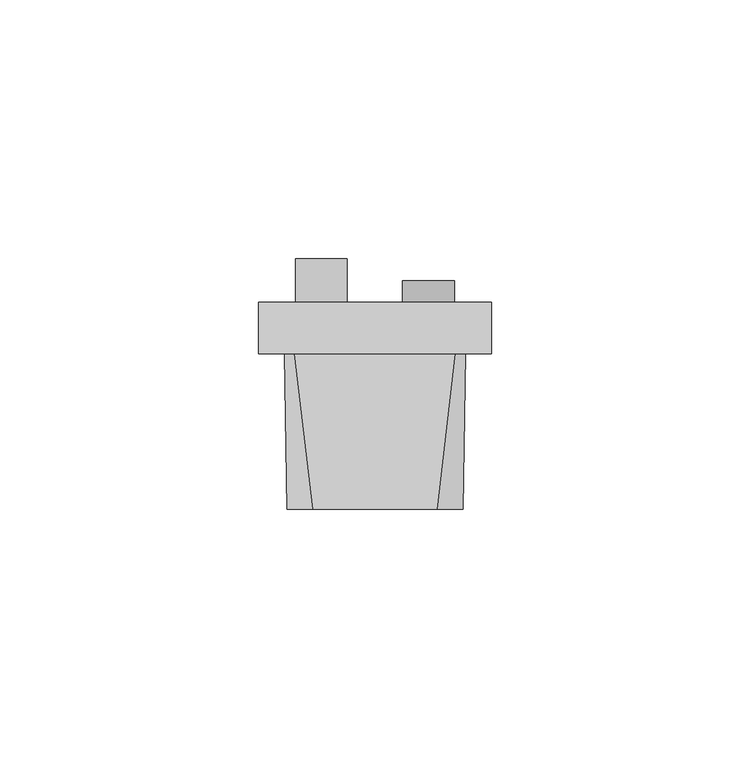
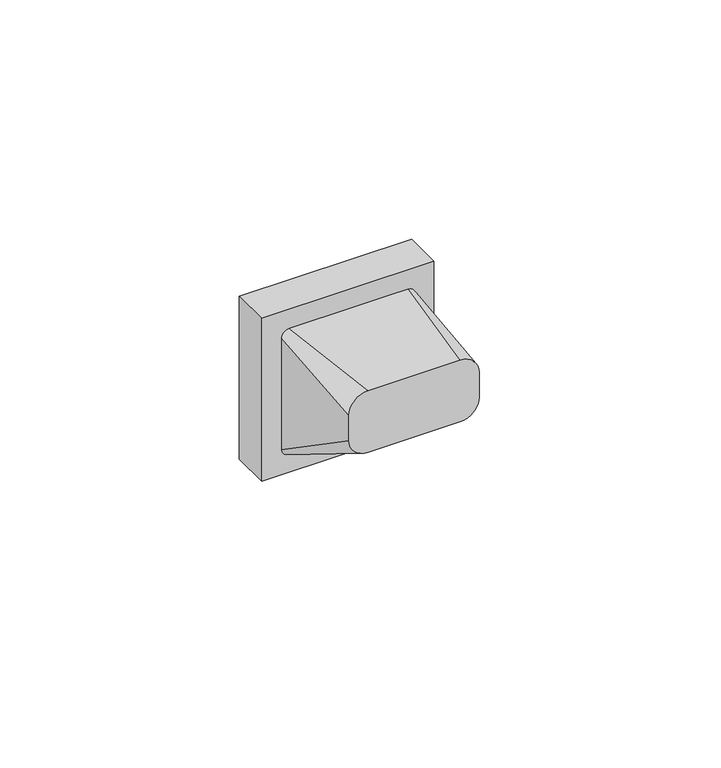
"""IFC4 building model written with IfcOpenShell, lengths in millimetres: proxy geometry, IEK_Skandy_Механизм розетки мультимедийной : TV+SAT_SK-A13B."""

import ifcopenshell
import ifcopenshell.guid

model = None  # the IFC model being written
_history = None  # IfcOwnerHistory: only IFC2X3 demands one
_inside = {}  # id of a spatial element -> (the spatial element, [elements in it])
_under = {}  # id of a project, library or spatial element -> (it, [spatial elements below it])
_declared = {}  # id of a project -> (the project, [libraries it declares])
_typed = {}  # id of a type object -> (the type object, [elements of that type])
_made_of = {}  # id of a material, layer set ... -> (it, [elements and type objects made of it])


def new_model(schema):
    """Start an empty IFC model of exactly this schema.

    Asked for "IFC4X3", IfcOpenShell would pick the latest addendum, in which some entities
    have other attributes; the version numbers below select the first issue.
    IFC2X3 requires an IfcOwnerHistory on every rooted entity: one is made here for all.
    """
    global model, _history
    if schema == "IFC4X3":
        model = ifcopenshell.file(schema_version=(4, 3, 0, 0))
    else:
        model = ifcopenshell.file(schema=schema)
    _inside.clear()
    _under.clear()
    _declared.clear()
    _typed.clear()
    _made_of.clear()
    _history = None
    if model.schema == "IFC2X3":
        org = make("IfcOrganization", Name="unknown")
        user = make(
            "IfcPersonAndOrganization",
            ThePerson=make("IfcPerson", FamilyName="unknown"),
            TheOrganization=org,
        )
        app = make(
            "IfcApplication",
            ApplicationDeveloper=org,
            Version="unknown",
            ApplicationFullName="unknown",
            ApplicationIdentifier="unknown",
        )
        _history = make(
            "IfcOwnerHistory",
            OwningUser=user,
            OwningApplication=app,
            ChangeAction="ADDED",
            CreationDate=0,
        )
    return model


def make(cls, **values):
    """One entity of the class cls with the attributes given. An attribute that is None is left unset."""
    return model.create_entity(
        cls, **{name: value for name, value in values.items() if value is not None}
    )


def rooted(cls, **values):
    """An entity with a GlobalId (a new one), such as an element, a storey or a relation."""
    return make(cls, GlobalId=ifcopenshell.guid.new(), OwnerHistory=_history, **values)


def si_unit(unit_type, name, prefix=None):
    """IfcSIUnit, for example si_unit("LENGTHUNIT", "METRE", prefix="MILLI")."""
    return make("IfcSIUnit", UnitType=unit_type, Prefix=prefix, Name=name)


def assignment(units):
    """IfcUnitAssignment: the units of a project."""
    return None if units is None else make("IfcUnitAssignment", Units=units)


def point(xyz):
    """IfcCartesianPoint."""
    return None if xyz is None else make("IfcCartesianPoint", Coordinates=xyz)


def direction(xyz):
    """IfcDirection."""
    return None if xyz is None else make("IfcDirection", DirectionRatios=xyz)


def frame(location, z_axis=None, x_axis=None):
    """IfcAxis2Placement3D, a coordinate frame: its origin and axes. An axis left out is left unset."""
    return make(
        "IfcAxis2Placement3D",
        Location=point(location),
        Axis=direction(z_axis),
        RefDirection=direction(x_axis),
    )


def origin():
    """The frame at (0, 0, 0) with its axes left unset."""
    return frame((0.0, 0.0, 0.0))


def place(relative_to, where):
    """IfcLocalPlacement: puts the frame where relative to a parent placement (None: the world)."""
    return make(
        "IfcLocalPlacement", PlacementRelTo=relative_to, RelativePlacement=where
    )


def context(
    kind, dimensions, precision=None, world=None, true_north=None, identifier=None
):
    """IfcGeometricRepresentationContext, for example the 3D "Model" context."""
    return make(
        "IfcGeometricRepresentationContext",
        ContextIdentifier=identifier,
        ContextType=kind,
        CoordinateSpaceDimension=dimensions,
        Precision=precision,
        WorldCoordinateSystem=world,
        TrueNorth=true_north,
    )


def project(units=None, contexts=None):
    """IfcProject with its units and contexts."""
    return rooted(
        "IfcProject",
        Name="project",
        RepresentationContexts=contexts,
        UnitsInContext=assignment(units),
    )


def spatial(cls, under=None, at=None, **own):
    """A site, building, storey or space (cls), placed at a placement, below another one or the project."""
    s = rooted(cls, ObjectPlacement=at, **own)
    if under is not None:
        _under.setdefault(under.id(), (under, []))[1].append(s)
    return s


def polyline(points):
    """IfcPolyline through the points."""
    return make("IfcPolyline", Points=[point(p) for p in points])


def circle_curve(where, radius):
    """IfcCircle in the frame where."""
    return make("IfcCircle", Position=where, Radius=radius)


def shape(context_of_items, identifier, shape_type, items):
    """IfcShapeRepresentation: the items that make up one representation, for example the "Body"."""
    return make(
        "IfcShapeRepresentation",
        ContextOfItems=context_of_items,
        RepresentationIdentifier=identifier,
        RepresentationType=shape_type,
        Items=items,
    )


def source(mapping_origin, context_of_items, identifier, shape_type, items):
    """IfcRepresentationMap: a shape defined once, which mapped items show again and again."""
    return make(
        "IfcRepresentationMap",
        MappingOrigin=mapping_origin,
        MappedRepresentation=shape(context_of_items, identifier, shape_type, items),
    )


def transform(
    local_origin,
    x_axis=None,
    y_axis=None,
    z_axis=None,
    scale=None,
    scale2=None,
    scale3=None,
    uniform=True,
):
    """IfcCartesianTransformationOperator3D, or its non-uniform kind. x_axis, y_axis, z_axis: its Axis1, 2, 3."""
    if uniform:
        return make(
            "IfcCartesianTransformationOperator3D",
            Axis1=direction(x_axis),
            Axis2=direction(y_axis),
            LocalOrigin=point(local_origin),
            Scale=scale,
            Axis3=direction(z_axis),
        )
    return make(
        "IfcCartesianTransformationOperator3DnonUniform",
        Axis1=direction(x_axis),
        Axis2=direction(y_axis),
        LocalOrigin=point(local_origin),
        Scale=scale,
        Axis3=direction(z_axis),
        Scale2=scale2,
        Scale3=scale3,
    )


def mapped(mapping_source, mapping_target):
    """IfcMappedItem: shows the shape of a source again, moved by a transform."""
    return make(
        "IfcMappedItem", MappingSource=mapping_source, MappingTarget=mapping_target
    )


def made_of(thing, what):
    """Note that an element or type object is made of a material, layer set ...; save() writes the relation."""
    if what is not None:
        _made_of.setdefault(what.id(), (what, []))[1].append(thing)
    return thing


def element(
    cls,
    number,
    at=None,
    inside=None,
    cuts=None,
    type_object=None,
    material=None,
    context=None,
    identifier="Body",
    shape_type=None,
    held_by="IfcProductDefinitionShape",
    body=None,
    shapes=None,
    **own,
):
    """One element of the class cls, such as IfcWall. Its Tag is "e" and its number.

    at: its placement. inside: the storey or other place that contains it. cuts: it is an
    opening in that element (IfcRelVoidsElement). A single representation is given by context,
    identifier, shape_type and body (its items); several are given by shapes. held_by: the class
    of the entity that holds the representations. save() writes the other relations.
    """
    e = rooted(cls, Tag="e%d" % number, ObjectPlacement=at, **own)
    if body is not None:
        shapes = [shape(context, identifier, shape_type, body)]
    if shapes is not None:
        e.Representation = make(held_by, Representations=shapes)
    if inside is not None:
        _inside.setdefault(inside.id(), (inside, []))[1].append(e)
    if cuts is not None:
        rooted(
            "IfcRelVoidsElement", RelatingBuildingElement=cuts, RelatedOpeningElement=e
        )
    if type_object is not None:
        _typed.setdefault(type_object.id(), (type_object, []))[1].append(e)
    return made_of(e, material)


def aggregate(whole, parts):
    """IfcRelAggregates: a whole, such as a stair, and the parts it consists of."""
    return rooted("IfcRelAggregates", RelatingObject=whole, RelatedObjects=parts)


def save(model, path):
    """Write the relations noted so far, then the file.

    IfcRelAggregates (storeys below a building ...), IfcRelContainedInSpatialStructure (elements
    in a storey), IfcRelDefinesByType, IfcRelAssociatesMaterial and IfcRelDeclares: one each for
    every whole, place, type object, material and project.
    """
    for whole, parts in _under.values():
        aggregate(whole, parts)
    for where, things in _inside.values():
        rooted(
            "IfcRelContainedInSpatialStructure",
            RelatedElements=things,
            RelatingStructure=where,
        )
    for kind, things in _typed.values():
        rooted("IfcRelDefinesByType", RelatedObjects=things, RelatingType=kind)
    for what, things in _made_of.values():
        rooted("IfcRelAssociatesMaterial", RelatedObjects=things, RelatingMaterial=what)
    for by, libraries in _declared.values():
        rooted("IfcRelDeclares", RelatingContext=by, RelatedDefinitions=libraries)
    model.write(path)


def plane_surface(at):
    """IfcPlane: the flat surface through the origin of the frame at, square to its z axis."""
    return make("IfcPlane", Position=at)


def cylinder_surface(at, radius):
    """IfcCylindricalSurface: all points at the distance radius from the z axis of the frame at."""
    return make("IfcCylindricalSurface", Position=at, Radius=radius)


def revolved_surface(curve, axis_point, axis_direction):
    """IfcSurfaceOfRevolution: the curve turned about the line through axis_point along axis_direction."""
    return make(
        "IfcSurfaceOfRevolution",
        SweptCurve=make("IfcArbitraryOpenProfileDef", ProfileType="CURVE", Curve=curve),
        AxisPosition=make("IfcAxis1Placement", Location=point(axis_point), Axis=direction(axis_direction)),
    )


def spline_surface(u_degree, v_degree, points, u_multiplicities, v_multiplicities, u_knots, v_knots, weights=None):
    """IfcBSplineSurfaceWithKnots; with weights, IfcRationalBSplineSurfaceWithKnots. points: one row for each step in u."""
    own = dict(
        UDegree=u_degree,
        VDegree=v_degree,
        ControlPointsList=[[point(p) for p in row] for row in points],
        SurfaceForm="UNSPECIFIED",
        UClosed=False,
        VClosed=False,
        SelfIntersect=False,
        UMultiplicities=u_multiplicities,
        VMultiplicities=v_multiplicities,
        UKnots=u_knots,
        VKnots=v_knots,
        KnotSpec="UNSPECIFIED",
    )
    if weights is None:
        return make("IfcBSplineSurfaceWithKnots", **own)
    return make("IfcRationalBSplineSurfaceWithKnots", WeightsData=weights, **own)


def advanced_brep(points, edges, surfaces, faces):
    """IfcAdvancedBrep: a solid bounded by faces that lie on surfaces and meet in shared edges.

    An edge is (start, end): straight between two places in points (the first is 0);
    or (start, end, curve); or (start, end, curve, False) where it runs against its curve.
    A face is (place in surfaces, loops), or (place, loops, False) where it looks against
    its surface's normal. A loop lists edges by number (the first is 1), with a minus sign
    where the edge is run from its end to its start. The first loop is the outer one.
    """
    corners = [point(p) for p in points]
    vertices = [make("IfcVertexPoint", VertexGeometry=c) for c in corners]
    made = []
    for start, end, *more in edges:
        made.append(
            make(
                "IfcEdgeCurve",
                EdgeStart=vertices[start],
                EdgeEnd=vertices[end],
                EdgeGeometry=more[0] if more else make("IfcPolyline", Points=[corners[start], corners[end]]),
                SameSense=more[1] if len(more) > 1 else True,
            )
        )
    hull = []
    for where, loops, *sense in faces:
        bounds = []
        for j, loop in enumerate(loops):
            ring = [make("IfcOrientedEdge", EdgeElement=made[abs(k) - 1], Orientation=k > 0) for k in loop]
            bounds.append(
                make(
                    "IfcFaceOuterBound" if j == 0 else "IfcFaceBound",
                    Bound=make("IfcEdgeLoop", EdgeList=ring),
                    Orientation=True,
                )
            )
        hull.append(make("IfcAdvancedFace", Bounds=bounds, FaceSurface=surfaces[where], SameSense=sense[0] if sense else True))
    return make("IfcAdvancedBrep", Outer=make("IfcClosedShell", CfsFaces=hull))


def electrical_fixtures_d0569d21(model_context):
    return source(origin(), model_context, "Body", "AdvancedBrep", [
        advanced_brep(
        [(-7.958782, 17.9212356, 0.0), (-12.7843563, 17.9212356, 0.0), (-11.4259438, 17.9212356, 0.0), (-9.3171946, 17.9212356, 0.0), (-7.958782, 0.7271355, 0.0), (-12.7843563, 0.7271355, 0.0), (-9.3171946, 0.7271355, 0.0), (-11.4259438, 0.7271355, 0.0)],
        [
            (0, 1, circle_curve(frame((-10.3715692, 17.9212356, 0.0), z_axis=(0.0, 1.0, 0.0), x_axis=(-1.0, 0.0, 0.0)), 2.4127872)),
            (1, 2),
            (2, 3, circle_curve(frame((-10.3715692, 17.9212356, 0.0), z_axis=(0.0, -1.0, 0.0), x_axis=(-1.0, 0.0, 0.0)), 1.0543746)),
            (3, 0),
            (1, 0, circle_curve(frame((-10.3715692, 17.9212356, 0.0), z_axis=(0.0, 1.0, 0.0), x_axis=(-1.0, 0.0, 0.0)), 2.4127872)),
            (3, 2, circle_curve(frame((-10.3715692, 17.9212356, 0.0), z_axis=(0.0, -1.0, 0.0), x_axis=(-1.0, 0.0, 0.0)), 1.0543746)),
            (4, 5, circle_curve(frame((-10.3715692, 0.7271355, 0.0), z_axis=(0.0, 1.0, 0.0), x_axis=(-1.0, 0.0, 0.0)), 2.4127872)),
            (5, 1),
            (0, 4),
            (5, 4, circle_curve(frame((-10.3715692, 0.7271355, 0.0), z_axis=(0.0, 1.0, 0.0), x_axis=(-1.0, 0.0, 0.0)), 2.4127872)),
            (6, 7, circle_curve(frame((-10.3715692, 0.7271355, 0.0), z_axis=(0.0, 1.0, 0.0), x_axis=(-1.0, 0.0, 0.0)), 1.0543746)),
            (7, 5),
            (4, 6),
            (7, 6, circle_curve(frame((-10.3715692, 0.7271355, 0.0), z_axis=(0.0, 1.0, 0.0), x_axis=(-1.0, 0.0, 0.0)), 1.0543746)),
            (2, 7),
            (6, 3),
        ],
        [
            plane_surface(frame((-10.3715692, 17.9212356, 0.0), z_axis=(0.0, 1.0, 0.0), x_axis=(-1.0, 0.0, 0.0))),
            cylinder_surface(frame((-10.3715692, 0.0, 0.0), z_axis=(0.0, -1.0, 0.0), x_axis=(-1.0, 0.0, 0.0)), 2.4127872),
            plane_surface(frame((-10.3715692, 0.7271355, 0.0), z_axis=(0.0, -1.0, 0.0), x_axis=(-1.0, 0.0, 0.0))),
            revolved_surface(polyline([(-11.425943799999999, 0.7271355, 0.0), (-11.425943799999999, 17.9212356, 0.0)]), (-10.3715692, 0.0, 0.0), (0.0, -1.0, 0.0)),
        ],
        [
            (0, [[1, 2, 3, 4]]),
            (0, [[5, -4, 6, -2]]),
            (1, [[7, 8, -1, 9]]),
            (1, [[10, -9, -5, -8]]),
            (2, [[11, 12, -7, 13]]),
            (2, [[14, -13, -10, -12]]),
            (3, [[-3, 15, -11, 16]]),
            (3, [[-6, -16, -14, -15]]),
        ],
    ),
        advanced_brep(
        [(10.3715692, 13.2712404, 0.0), (11.2742181, 13.2712404, 0.0), (9.4689203, 13.2712404, 0.0), (9.4689203, 0.749327, 0.0), (11.2742181, 0.749327, 0.0), (10.3715692, 0.749327, 0.0)],
        [
            (0, 1),
            (1, 2, circle_curve(frame((10.3715692, 13.2712404, 0.0), z_axis=(0.0, 1.0, 0.0), x_axis=(1.0, 0.0, 0.0)), 0.9026489)),
            (2, 0),
            (2, 1, circle_curve(frame((10.3715692, 13.2712404, 0.0), z_axis=(0.0, 1.0, 0.0), x_axis=(1.0, 0.0, 0.0)), 0.9026489)),
            (3, 4, circle_curve(frame((10.3715692, 0.749327, 0.0), z_axis=(0.0, -1.0, 0.0), x_axis=(1.0, 0.0, 0.0)), 0.9026489)),
            (4, 5),
            (5, 3),
            (4, 3, circle_curve(frame((10.3715692, 0.749327, 0.0), z_axis=(0.0, -1.0, 0.0), x_axis=(1.0, 0.0, 0.0)), 0.9026489)),
            (1, 4),
            (3, 2),
        ],
        [
            plane_surface(frame((10.3715692, 13.2712404, 0.0), z_axis=(0.0, 1.0, 0.0), x_axis=(1.0, 0.0, 0.0))),
            plane_surface(frame((10.3715692, 0.749327, 0.0), z_axis=(0.0, -1.0, 0.0), x_axis=(1.0, 0.0, 0.0))),
            cylinder_surface(frame((10.3715692, 0.0, 0.0), z_axis=(0.0, 1.0, 0.0), x_axis=(1.0, 0.0, 0.0)), 0.9026489),
        ],
        [
            (0, [[1, 2, 3]]),
            (0, [[-3, 4, -1]]),
            (1, [[5, 6, 7]]),
            (1, [[8, -7, -6]]),
            (2, [[-2, 9, -5, 10]]),
            (2, [[-4, -10, -8, -9]]),
        ],
    ),
        advanced_brep(
        [(-14.03558, 9.0, 10.0), (-6.7075584, 9.0, 10.0), (-6.7075584, 9.0, 5.9644803), (-14.03558, 9.0, 5.9644803), (6.7075584, 9.0, 10.0), (14.03558, 9.0, 10.0), (14.03558, 9.0, 5.9644803), (6.7075584, 9.0, 5.9644803), (-14.03558, 10.0, 10.0), (-6.7075584, 10.0, 10.0), (-14.03558, 10.0, 5.9644803), (-6.7075584, 10.0, 5.9644803), (-22.5, 10.0, 22.5), (22.5, 10.0, 22.5), (22.5, 10.0, -22.5), (-22.5, 10.0, -22.5), (-17.3715692, 10.0, 0.0), (-3.3715692, 10.0, 0.0), (14.03558, 10.0, 10.0), (6.7075584, 10.0, 10.0), (6.7075584, 10.0, 5.9644803), (3.3715692, 10.0, 0.0), (17.3715692, 10.0, 0.0), (14.03558, 10.0, 5.9644803), (-22.5, 0.0, 22.5), (-22.5, 0.0, -22.5), (22.5, 0.0, -22.5), (22.5, 0.0, 22.5), (-17.3715692, 0.7243142, 0.0), (-3.3715692, 0.7243142, 0.0), (3.3715692, 0.7243142, 0.0), (17.3715692, 0.7243142, 0.0)],
        [
            (0, 1),
            (1, 2),
            (2, 3, circle_curve(frame((-10.3715692, 9.0, 0.0), z_axis=(0.0, -1.0, 0.0), x_axis=(1.0, 0.0, 0.0)), 7.0)),
            (3, 0),
            (4, 5),
            (5, 6),
            (6, 7, circle_curve(frame((10.3715692, 9.0, 0.0), z_axis=(0.0, -1.0, 0.0), x_axis=(1.0, 0.0, 0.0)), 7.0)),
            (7, 4),
            (0, 8),
            (8, 9),
            (9, 1),
            (3, 10),
            (10, 8),
            (9, 11),
            (11, 2),
            (12, 13),
            (13, 14),
            (14, 15),
            (15, 12),
            (10, 16, circle_curve(frame((-10.3715692, 10.0, 0.0), z_axis=(0.0, -1.0, 0.0), x_axis=(1.0, 0.0, 0.0)), 7.0)),
            (16, 17, circle_curve(frame((-10.3715692, 10.0, 0.0), z_axis=(0.0, -1.0, 0.0), x_axis=(1.0, 0.0, 0.0)), 7.0)),
            (17, 11, circle_curve(frame((-10.3715692, 10.0, 0.0), z_axis=(0.0, -1.0, 0.0), x_axis=(1.0, 0.0, 0.0)), 7.0)),
            (18, 19),
            (19, 20),
            (20, 21, circle_curve(frame((10.3715692, 10.0, 0.0), z_axis=(0.0, -1.0, 0.0), x_axis=(1.0, 0.0, 0.0)), 7.0)),
            (21, 22, circle_curve(frame((10.3715692, 10.0, 0.0), z_axis=(0.0, -1.0, 0.0), x_axis=(1.0, 0.0, 0.0)), 7.0)),
            (22, 23, circle_curve(frame((10.3715692, 10.0, 0.0), z_axis=(0.0, -1.0, 0.0), x_axis=(1.0, 0.0, 0.0)), 7.0)),
            (23, 18),
            (24, 25),
            (25, 26),
            (26, 27),
            (27, 24),
            (15, 25),
            (24, 12),
            (14, 26),
            (13, 27),
            (28, 29, circle_curve(frame((-10.3715692, 0.7243142, 0.0), z_axis=(0.0, 1.0, 0.0), x_axis=(1.0, 0.0, 0.0)), 7.0)),
            (29, 28, circle_curve(frame((-10.3715692, 0.7243142, 0.0), z_axis=(0.0, 1.0, 0.0), x_axis=(1.0, 0.0, 0.0)), 7.0)),
            (30, 31, circle_curve(frame((10.3715692, 0.7243142, 0.0), z_axis=(0.0, 1.0, 0.0), x_axis=(1.0, 0.0, 0.0)), 7.0)),
            (31, 30, circle_curve(frame((10.3715692, 0.7243142, 0.0), z_axis=(0.0, 1.0, 0.0), x_axis=(1.0, 0.0, 0.0)), 7.0)),
            (29, 17),
            (16, 28),
            (31, 22),
            (21, 30),
            (20, 7),
            (6, 23),
            (19, 4),
            (5, 18),
        ],
        [
            plane_surface(frame((-14.03558, 9.0, 10.0), z_axis=(0.0, 1.0, 0.0), x_axis=(-1.0, 0.0, 0.0))),
            plane_surface(frame((-6.7075584, 9.0, 10.0), z_axis=(0.0, 0.0, -1.0), x_axis=(0.0, 1.0, 0.0))),
            plane_surface(frame((-14.03558, 9.0, 10.0), z_axis=(1.0, 0.0, 0.0), x_axis=(0.0, 1.0, 0.0))),
            plane_surface(frame((-6.7075584, 9.0, 4.8456457), z_axis=(-1.0, 0.0, 0.0), x_axis=(0.0, 1.0, 0.0))),
            plane_surface(frame((-22.5, 10.0, -22.5), z_axis=(0.0, 1.0, 0.0), x_axis=(0.0, 0.0, 1.0))),
            plane_surface(frame((-22.5, 0.0, -22.5), z_axis=(0.0, -1.0, 0.0), x_axis=(0.0, 0.0, -1.0))),
            plane_surface(frame((-22.5, 0.0, 22.5), z_axis=(-1.0, 0.0, 0.0), x_axis=(0.0, 1.0, 0.0))),
            plane_surface(frame((-22.5, 0.0, -22.5), z_axis=(0.0, 0.0, -1.0), x_axis=(0.0, 1.0, 0.0))),
            plane_surface(frame((22.5, 0.0, -22.5), z_axis=(1.0, 0.0, 0.0), x_axis=(0.0, 1.0, 0.0))),
            plane_surface(frame((22.5, 0.0, 22.5), z_axis=(0.0, 0.0, 1.0), x_axis=(0.0, 1.0, 0.0))),
            plane_surface(frame((-3.3715692, 0.7243142, 0.0), z_axis=(0.0, 1.0, 0.0), x_axis=(0.0, 0.0, 1.0))),
            revolved_surface(polyline([(-3.3715691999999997, 0.7243142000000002, 0.0), (-3.3715691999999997, 10.0, 0.0)]), (-10.3715692, 10.0, 0.0), (0.0, -1.0, 0.0)),
            revolved_surface(polyline([(17.3715692, 0.7243142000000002, 0.0), (17.3715692, 10.0, 0.0)]), (10.3715692, -3.0, 0.0), (0.0, -1.0, 0.0)),
            plane_surface(frame((6.7075584, 9.0, 10.0), z_axis=(1.0, 0.0, 0.0), x_axis=(0.0, 1.0, 0.0))),
            plane_surface(frame((14.03558, 9.0, 4.8456457), z_axis=(-1.0, 0.0, 0.0), x_axis=(0.0, 1.0, 0.0))),
            plane_surface(frame((14.03558, 9.0, 10.0), z_axis=(0.0, 0.0, -1.0), x_axis=(0.0, 1.0, 0.0))),
        ],
        [
            (0, [[1, 2, 3, 4]]),
            (0, [[5, 6, 7, 8]]),
            (1, [[-1, 9, 10, 11]]),
            (2, [[-9, -4, 12, 13]]),
            (3, [[-11, 14, 15, -2]]),
            (4, [[16, 17, 18, 19], [-10, -13, 20, 21, 22, -14], [23, 24, 25, 26, 27, 28]]),
            (5, [[29, 30, 31, 32]]),
            (6, [[-19, 33, -29, 34]]),
            (7, [[-18, 35, -30, -33]]),
            (8, [[-17, 36, -31, -35]]),
            (9, [[-16, -34, -32, -36]]),
            (10, [[37, 38]]),
            (10, [[39, 40]]),
            (11, [[-38, 41, -21, 42]]),
            (11, [[-37, -42, -20, -12, -3, -15, -22, -41]]),
            (12, [[-40, 43, -26, 44]]),
            (12, [[-39, -44, -25, 45, -7, 46, -27, -43]]),
            (13, [[47, -8, -45, -24]]),
            (14, [[48, -28, -46, -6]]),
            (15, [[-5, -47, -23, -48]]),
        ],
    ),
        advanced_brep(
        [(-12.0, -30.0, 17.0), (-17.0, -30.0, 12.0), (-17.0, -30.0, 5.0), (-12.0, -30.0, 0.0), (12.0, -30.0, 0.0), (17.0, -30.0, 5.0), (17.0, -30.0, 12.0), (12.0, -30.0, 17.0), (-15.5, 0.0, 17.5), (15.5, 0.0, 17.5), (17.5, 0.0, 15.5), (17.5, 0.0, -15.5), (15.5, 0.0, -17.5), (-15.5, 0.0, -17.5), (-17.5, 0.0, -15.5), (-17.5, 0.0, 15.5)],
        [
            (0, 1, circle_curve(frame((-12.0, -30.0, 12.0), z_axis=(0.0, -1.0, 0.0), x_axis=(1.0, 0.0, 0.0)), 5.0)),
            (1, 2),
            (2, 3, circle_curve(frame((-12.0, -30.0, 5.0), z_axis=(0.0, -1.0, 0.0), x_axis=(1.0, 0.0, 0.0)), 5.0)),
            (3, 4),
            (4, 5, circle_curve(frame((12.0, -30.0, 5.0), z_axis=(0.0, -1.0, 0.0), x_axis=(1.0, 0.0, 0.0)), 5.0)),
            (5, 6),
            (6, 7, circle_curve(frame((12.0, -30.0, 12.0), z_axis=(0.0, -1.0, 0.0), x_axis=(1.0, 0.0, 0.0)), 5.0)),
            (7, 0),
            (8, 9),
            (9, 10, circle_curve(frame((15.5, 0.0, 15.5), z_axis=(0.0, 1.0, 0.0), x_axis=(1.0, 0.0, 0.0)), 2.0)),
            (10, 11),
            (11, 12, circle_curve(frame((15.5, 0.0, -15.5), z_axis=(0.0, 1.0, 0.0), x_axis=(1.0, 0.0, 0.0)), 2.0)),
            (12, 13),
            (13, 14, circle_curve(frame((-15.5, 0.0, -15.5), z_axis=(0.0, 1.0, 0.0), x_axis=(1.0, 0.0, 0.0)), 2.0)),
            (14, 15),
            (15, 8, circle_curve(frame((-15.5, 0.0, 15.5), z_axis=(0.0, 1.0, 0.0), x_axis=(1.0, 0.0, 0.0)), 2.0)),
            (8, 0),
            (7, 9),
            (6, 10),
            (5, 11),
            (4, 12),
            (3, 13),
            (15, 1),
            (14, 2),
        ],
        [
            plane_surface(frame((0.0, -30.0, 8.5), z_axis=(0.0, -1.0, 0.0), x_axis=(-1.0, 0.0, 0.0))),
            plane_surface(frame((0.0, 0.0, 0.0), z_axis=(0.0, 1.0, 0.0), x_axis=(-1.0, 0.0, 0.0))),
            plane_surface(frame((0.0, 0.0, 17.5), z_axis=(0.0, -0.01666435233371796, 0.9998611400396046), x_axis=(-1.0, 0.0, 0.0))),
            spline_surface(2, 1, [[(17.5, 0.0, 15.5), (17.0, -30.0, 12.0)], [(17.5, 0.0, 17.5), (17.0, -30.0, 17.0)], [(15.5, 0.0, 17.5), (12.0, -30.0, 17.0)]], [3, 3], [2, 2], [0.0, 1.0], [0.0, 1.0], weights=[[1.0, 1.0], [0.7071067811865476, 0.7071067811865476], [1.0, 1.0]]),
            plane_surface(frame((17.5, 0.0, 0.0), z_axis=(0.9998611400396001, -0.016664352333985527, 0.0), x_axis=(0.0, 0.0, 1.0))),
            spline_surface(2, 1, [[(15.5, 0.0, -17.5), (12.0, -30.0, 0.0)], [(17.5, 0.0, -17.5), (17.0, -30.0, 0.0)], [(17.5, 0.0, -15.5), (17.0, -30.0, 5.0)]], [3, 3], [2, 2], [0.0, 1.0], [0.0, 1.0], weights=[[1.0, 1.0], [0.7071067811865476, 0.7071067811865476], [1.0, 1.0]]),
            plane_surface(frame((0.0, 0.0, -17.5), z_axis=(0.0, -0.5038710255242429, -0.863778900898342), x_axis=(1.0, 0.0, 0.0))),
            spline_surface(2, 1, [[(-15.5, 0.0, 17.5), (-12.0, -30.0, 17.0)], [(-17.5, 0.0, 17.5), (-17.0, -30.0, 17.0)], [(-17.5, 0.0, 15.5), (-17.0, -30.0, 12.0)]], [3, 3], [2, 2], [0.0, 1.0], [0.0, 1.0], weights=[[1.0, 1.0], [0.7071067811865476, 0.7071067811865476], [1.0, 1.0]]),
            plane_surface(frame((-17.5, 0.0, 0.0), z_axis=(-0.9998611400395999, -0.01666435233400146, 0.0), x_axis=(0.0, 0.0, -1.0))),
            spline_surface(2, 1, [[(-17.5, 0.0, -15.5), (-17.0, -30.0, 5.0)], [(-17.5, 0.0, -17.5), (-17.0, -30.0, 0.0)], [(-15.5, 0.0, -17.5), (-12.0, -30.0, 0.0)]], [3, 3], [2, 2], [0.0, 1.0], [0.0, 1.0], weights=[[1.0, 1.0], [0.7071067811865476, 0.7071067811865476], [1.0, 1.0]]),
        ],
        [
            (0, [[1, 2, 3, 4, 5, 6, 7, 8]]),
            (1, [[9, 10, 11, 12, 13, 14, 15, 16]]),
            (2, [[-9, 17, -8, 18]]),
            (3, [[-10, -18, -7, 19]]),
            (4, [[-11, -19, -6, 20]]),
            (5, [[-12, -20, -5, 21]]),
            (6, [[-13, -21, -4, 22]]),
            (7, [[-16, 23, -1, -17]]),
            (8, [[-15, 24, -2, -23]]),
            (9, [[-14, -22, -3, -24]]),
        ],
    ),
        advanced_brep(
        [(9.3171946, 8.9251664, 0.0), (11.4259438, 8.9251664, 0.0), (14.2127862, 8.9251664, 0.0), (6.5303521, 8.9251664, 0.0), (14.2127862, 0.7271355, 0.0), (6.5303521, 0.7271355, 0.0), (11.4259438, 0.7271355, 0.0), (9.3171946, 0.7271355, 0.0)],
        [
            (0, 1, circle_curve(frame((10.3715692, 8.9251664, 0.0), z_axis=(0.0, -1.0, 0.0), x_axis=(1.0, 0.0, 0.0)), 1.0543746)),
            (1, 2),
            (2, 3, circle_curve(frame((10.3715692, 8.9251664, 0.0), z_axis=(0.0, 1.0, 0.0), x_axis=(1.0, 0.0, 0.0)), 3.8412171)),
            (3, 0),
            (1, 0, circle_curve(frame((10.3715692, 8.9251664, 0.0), z_axis=(0.0, -1.0, 0.0), x_axis=(1.0, 0.0, 0.0)), 1.0543746)),
            (3, 2, circle_curve(frame((10.3715692, 8.9251664, 0.0), z_axis=(0.0, 1.0, 0.0), x_axis=(1.0, 0.0, 0.0)), 3.8412171)),
            (2, 4),
            (4, 5, circle_curve(frame((10.3715692, 0.7271355, 0.0), z_axis=(0.0, 1.0, 0.0), x_axis=(1.0, 0.0, 0.0)), 3.8412171)),
            (5, 3),
            (5, 4, circle_curve(frame((10.3715692, 0.7271355, 0.0), z_axis=(0.0, 1.0, 0.0), x_axis=(1.0, 0.0, 0.0)), 3.8412171)),
            (4, 6),
            (6, 7, circle_curve(frame((10.3715692, 0.7271355, 0.0), z_axis=(0.0, 1.0, 0.0), x_axis=(1.0, 0.0, 0.0)), 1.0543746)),
            (7, 5),
            (7, 6, circle_curve(frame((10.3715692, 0.7271355, 0.0), z_axis=(0.0, 1.0, 0.0), x_axis=(1.0, 0.0, 0.0)), 1.0543746)),
            (6, 1),
            (0, 7),
        ],
        [
            plane_surface(frame((10.3715692, 8.9251664, 0.0), z_axis=(0.0, 1.0, 0.0), x_axis=(1.0, 0.0, 0.0))),
            cylinder_surface(frame((10.3715692, 0.0, 0.0), z_axis=(0.0, 1.0, 0.0), x_axis=(1.0, 0.0, 0.0)), 3.8412171),
            plane_surface(frame((10.3715692, 0.7271355, 0.0), z_axis=(0.0, -1.0, 0.0), x_axis=(1.0, 0.0, 0.0))),
            revolved_surface(polyline([(11.425943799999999, 8.9251664, 0.0), (11.425943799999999, 0.7271355, 0.0)]), (10.3715692, 0.0, 0.0), (0.0, 1.0, 0.0)),
        ],
        [
            (0, [[1, 2, 3, 4]]),
            (0, [[5, -4, 6, -2]]),
            (1, [[-3, 7, 8, 9]]),
            (1, [[-6, -9, 10, -7]]),
            (2, [[-8, 11, 12, 13]]),
            (2, [[-10, -13, 14, -11]]),
            (3, [[-12, 15, -1, 16]]),
            (3, [[-14, -16, -5, -15]]),
        ],
    ),
        advanced_brep(
        [(5.3715692, 0.7049439, 0.0), (15.3715692, 0.7049439, 0.0), (14.3920998, 0.7049439, 0.0), (6.3510386, 0.7049439, 0.0), (14.3920998, 11.0, 0.0), (6.3510386, 11.0, 0.0), (14.3920998, 14.1430385, 0.0), (6.3510386, 14.1430385, 0.0), (15.3715692, 14.1430385, 0.0), (5.3715692, 14.1430385, 0.0)],
        [
            (0, 1, circle_curve(frame((10.3715692, 0.7049439, 0.0), z_axis=(0.0, -1.0, 0.0), x_axis=(1.0, 0.0, 0.0)), 5.0)),
            (1, 2),
            (2, 3, circle_curve(frame((10.3715692, 0.7049439, 0.0), z_axis=(0.0, 1.0, 0.0), x_axis=(1.0, 0.0, 0.0)), 4.0205306)),
            (3, 0),
            (1, 0, circle_curve(frame((10.3715692, 0.7049439, 0.0), z_axis=(0.0, -1.0, 0.0), x_axis=(1.0, 0.0, 0.0)), 5.0)),
            (3, 2, circle_curve(frame((10.3715692, 0.7049439, 0.0), z_axis=(0.0, 1.0, 0.0), x_axis=(1.0, 0.0, 0.0)), 4.0205306)),
            (2, 4),
            (4, 5, circle_curve(frame((10.3715692, 11.0, 0.0), z_axis=(0.0, 1.0, 0.0), x_axis=(1.0, 0.0, 0.0)), 4.0205306)),
            (5, 3),
            (5, 4, circle_curve(frame((10.3715692, 11.0, 0.0), z_axis=(0.0, 1.0, 0.0), x_axis=(1.0, 0.0, 0.0)), 4.0205306)),
            (4, 6),
            (6, 7, circle_curve(frame((10.3715692, 14.1430385, 0.0), z_axis=(0.0, 1.0, 0.0), x_axis=(1.0, 0.0, 0.0)), 4.0205306)),
            (7, 5),
            (7, 6, circle_curve(frame((10.3715692, 14.1430385, 0.0), z_axis=(0.0, 1.0, 0.0), x_axis=(1.0, 0.0, 0.0)), 4.0205306)),
            (6, 8),
            (8, 9, circle_curve(frame((10.3715692, 14.1430385, 0.0), z_axis=(0.0, 1.0, 0.0), x_axis=(1.0, 0.0, 0.0)), 5.0)),
            (9, 7),
            (9, 8, circle_curve(frame((10.3715692, 14.1430385, 0.0), z_axis=(0.0, 1.0, 0.0), x_axis=(1.0, 0.0, 0.0)), 5.0)),
            (8, 1),
            (0, 9),
        ],
        [
            plane_surface(frame((10.3715692, 0.7049439, 0.0), z_axis=(0.0, -1.0, 0.0), x_axis=(1.0, 0.0, 0.0))),
            revolved_surface(polyline([(14.3920998, 11.0, 0.0), (14.3920998, 0.7049439, 0.0)]), (10.3715692, 10.0, 0.0), (0.0, 1.0, 0.0)),
            revolved_surface(polyline([(14.3920998, 14.1430385, 0.0), (14.3920998, 11.0, 0.0)]), (10.3715692, 10.0, 0.0), (0.0, 1.0, 0.0)),
            plane_surface(frame((10.3715692, 14.1430385, 0.0), z_axis=(0.0, 1.0, 0.0), x_axis=(1.0, 0.0, 0.0))),
            cylinder_surface(frame((10.3715692, 10.0, 0.0), z_axis=(0.0, 1.0, 0.0), x_axis=(1.0, 0.0, 0.0)), 5.0),
        ],
        [
            (0, [[1, 2, 3, 4]]),
            (0, [[5, -4, 6, -2]]),
            (1, [[-3, 7, 8, 9]]),
            (1, [[-6, -9, 10, -7]]),
            (2, [[-8, 11, 12, 13]]),
            (2, [[-10, -13, 14, -11]]),
            (3, [[-12, 15, 16, 17]]),
            (3, [[-14, -17, 18, -15]]),
            (4, [[-16, 19, -1, 20]]),
            (4, [[-18, -20, -5, -19]]),
        ],
    ),
        advanced_brep(
        [(-7.958782, 0.7271355, 0.0), (-12.7843563, 0.7271355, 0.0), (-15.3715692, 0.7271355, 0.0), (-5.3715692, 0.7271355, 0.0), (-7.958782, 11.0, 0.0), (-12.7843563, 11.0, 0.0), (-7.958782, 18.4035586, 0.0), (-12.7843563, 18.4035586, 0.0), (-5.3715692, 18.4035586, 0.0), (-15.3715692, 18.4035586, 0.0)],
        [
            (0, 1, circle_curve(frame((-10.3715692, 0.7271355, 0.0), z_axis=(0.0, 1.0, 0.0), x_axis=(-1.0, 0.0, 0.0)), 2.4127872)),
            (1, 2),
            (2, 3, circle_curve(frame((-10.3715692, 0.7271355, 0.0), z_axis=(0.0, -1.0, 0.0), x_axis=(-1.0, 0.0, 0.0)), 5.0)),
            (3, 0),
            (1, 0, circle_curve(frame((-10.3715692, 0.7271355, 0.0), z_axis=(0.0, 1.0, 0.0), x_axis=(-1.0, 0.0, 0.0)), 2.4127872)),
            (3, 2, circle_curve(frame((-10.3715692, 0.7271355, 0.0), z_axis=(0.0, -1.0, 0.0), x_axis=(-1.0, 0.0, 0.0)), 5.0)),
            (4, 5, circle_curve(frame((-10.3715692, 11.0, 0.0), z_axis=(0.0, 1.0, 0.0), x_axis=(-1.0, 0.0, 0.0)), 2.4127872)),
            (5, 1),
            (0, 4),
            (5, 4, circle_curve(frame((-10.3715692, 11.0, 0.0), z_axis=(0.0, 1.0, 0.0), x_axis=(-1.0, 0.0, 0.0)), 2.4127872)),
            (6, 7, circle_curve(frame((-10.3715692, 18.4035586, 0.0), z_axis=(0.0, 1.0, 0.0), x_axis=(-1.0, 0.0, 0.0)), 2.4127872)),
            (7, 5),
            (4, 6),
            (7, 6, circle_curve(frame((-10.3715692, 18.4035586, 0.0), z_axis=(0.0, 1.0, 0.0), x_axis=(-1.0, 0.0, 0.0)), 2.4127872)),
            (8, 9, circle_curve(frame((-10.3715692, 18.4035586, 0.0), z_axis=(0.0, 1.0, 0.0), x_axis=(-1.0, 0.0, 0.0)), 5.0)),
            (9, 7),
            (6, 8),
            (9, 8, circle_curve(frame((-10.3715692, 18.4035586, 0.0), z_axis=(0.0, 1.0, 0.0), x_axis=(-1.0, 0.0, 0.0)), 5.0)),
            (2, 9),
            (8, 3),
        ],
        [
            plane_surface(frame((-10.3715692, 0.7271355, 0.0), z_axis=(0.0, -1.0, 0.0), x_axis=(-1.0, 0.0, 0.0))),
            revolved_surface(polyline([(-12.7843564, 0.7271354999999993, 0.0), (-12.7843564, 11.0, 0.0)]), (-10.3715692, 10.0, 0.0), (0.0, -1.0, 0.0)),
            revolved_surface(polyline([(-12.7843564, 11.0, 0.0), (-12.7843564, 18.4035586, 0.0)]), (-10.3715692, 10.0, 0.0), (0.0, -1.0, 0.0)),
            plane_surface(frame((-10.3715692, 18.4035586, 0.0), z_axis=(0.0, 1.0, 0.0), x_axis=(-1.0, 0.0, 0.0))),
            cylinder_surface(frame((-10.3715692, 10.0, 0.0), z_axis=(0.0, -1.0, 0.0), x_axis=(-1.0, 0.0, 0.0)), 5.0),
        ],
        [
            (0, [[1, 2, 3, 4]]),
            (0, [[5, -4, 6, -2]]),
            (1, [[7, 8, -1, 9]]),
            (1, [[10, -9, -5, -8]]),
            (2, [[11, 12, -7, 13]]),
            (2, [[14, -13, -10, -12]]),
            (3, [[15, 16, -11, 17]]),
            (3, [[18, -17, -14, -16]]),
            (4, [[-3, 19, -15, 20]]),
            (4, [[-6, -20, -18, -19]]),
        ],
    ),
    ])


if __name__ == "__main__":
    model = new_model("IFC4")
    model_context = context("Model", 3, world=origin())
    ifc_project = project(units=[si_unit("LENGTHUNIT", "METRE", prefix="MILLI")], contexts=[model_context])
    site = spatial("IfcSite", under=ifc_project)
    building = spatial("IfcBuilding", under=site)
    placement = place(None, origin())
    electrical_fixtures_shape = electrical_fixtures_d0569d21(model_context)
    element("IfcBuildingElementProxy", 1, Name="IEK_Skandy_Механизм розетки мультимедийной : TV+SAT_SK-A13B", ObjectType="IEK_Skandy_Механизм розетки мультимедийной : TV+SAT_SK-A13B", at=placement, inside=building, context=model_context, shape_type="MappedRepresentation", body=[
        mapped(electrical_fixtures_shape, transform((0.0, 0.0, 0.0), x_axis=(1.0, 0.0, 0.0), y_axis=(0.0, 1.0, 0.0), z_axis=(0.0, 0.0, 1.0))),
    ])
    save(model, "model.ifc")
